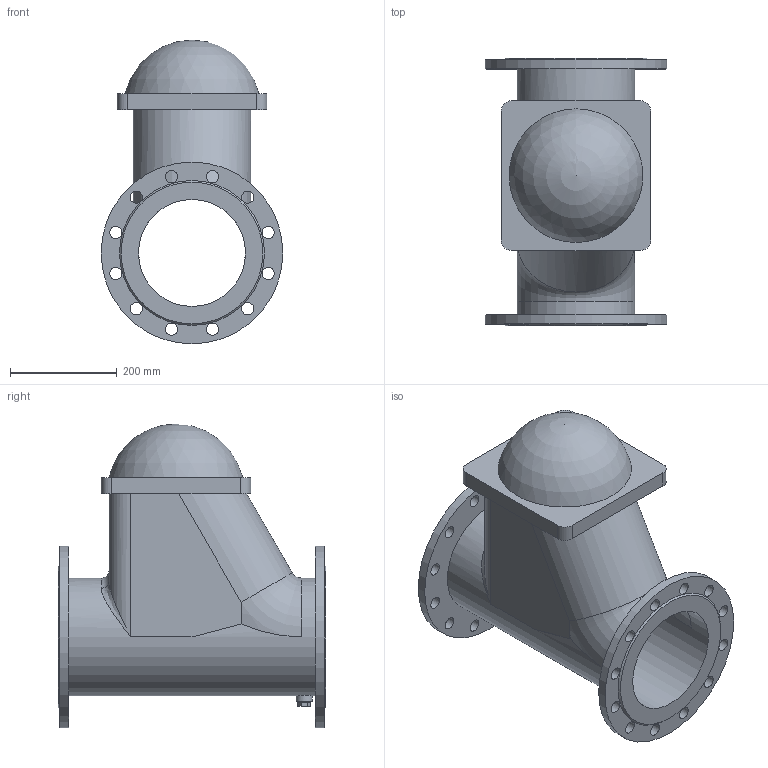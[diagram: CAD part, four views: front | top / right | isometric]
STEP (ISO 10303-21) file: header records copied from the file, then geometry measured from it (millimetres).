
FILE_DESCRIPTION(('STEP AP203'), '1');
FILE_NAME('Êëàïàí îáðàòíûé øàðîâîé ôëàíöåâûé 012F.Z DN200 PN16', '', ('UNSPECIFIED'), ('UNSPECIFIED'), 'ASCON STEP Converter 1.6', 'ASCON Math Kernel', '');
FILE_SCHEMA(('CONFIG_CONTROL_DESIGN'));
Length unit declared in the file: millimetre
Bounding box: 340 x 500 x 568 mm (x, y, z)
Volume: 18033438.5 mm3; surface area: 1297420.8 mm2
Topology: 1 solids, 1 shells, 78 faces, 200 edges, 130 vertices
Faces by surface type: cylinder 38, plane 32, torus 3, bspline 2, cone 2, sphere 1
Full cylindrical faces by diameter (mm): 23 x24, 25 x1, 30 x1, 200 x1, 220 x1, 340 x2
Entity records: 3576 total; most frequent: CARTESIAN_POINT 1046, DIRECTION 380, ORIENTED_EDGE 324, EDGE_LOOP 171, AXIS2_PLACEMENT_3D 162, EDGE_CURVE 162, VERTEX_POINT 129, FACE_BOUND 106
